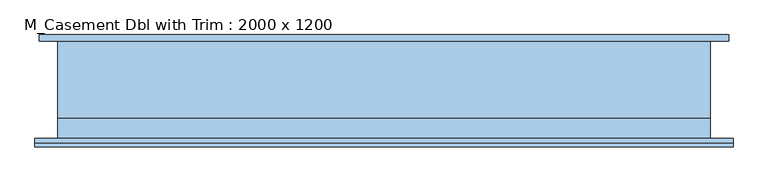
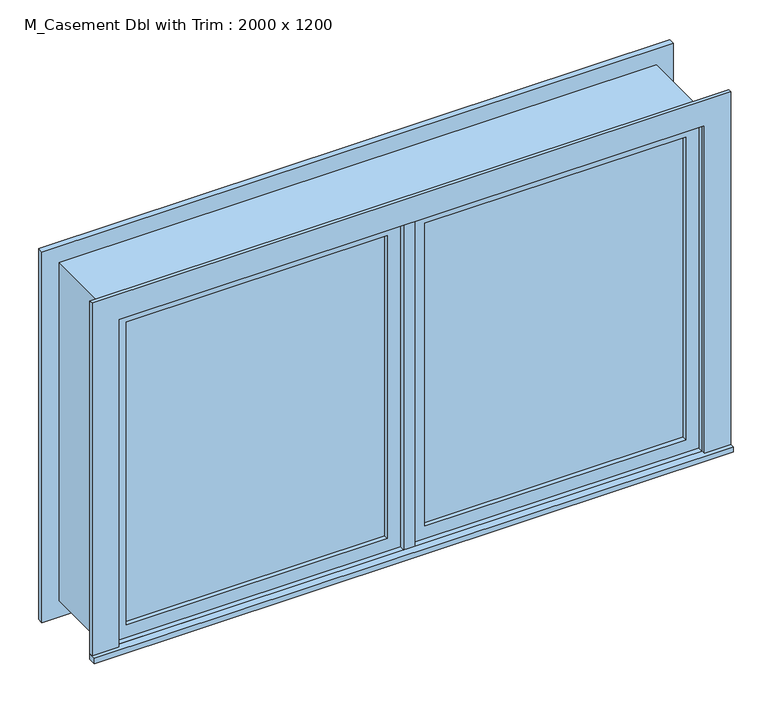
"""IFC4 building model written with IfcOpenShell, lengths in millimetres: window geometry, M_Casement Dbl with Trim : 2000 x 1200."""

from ifc_helpers import new_model, si_unit, frame, origin, place, context, project, spatial, polyline, outline, extrude, source, transform, mapped, element, save


def m_casement_dbl_with_trim_2000_x_1200_efed7f01(model_context):
    return source(origin(), model_context, "Body", "SweptSolid", [
        extrude(outline(polyline([(63.5, -134.175), (63.5, -121.475), (936.5, -121.475), (936.5, -134.175), (63.5, -134.175)])), frame((0.0, 0.0, 1063.5), z_axis=(0.0, 0.0, 1.0), x_axis=(1.0, 0.0, 0.0)), (0.0, 0.0, 1.0), 1073.0),
        extrude(outline(polyline([(2180.95, 19.05), (1019.05, 19.05), (1019.05, 980.95), (2180.95, 980.95), (2180.95, 19.05)]), holes=[polyline([(2136.5, 63.5), (2136.5, 936.5), (1063.5, 936.5), (1063.5, 63.5), (2136.5, 63.5)])]), frame((0.0, -150.05, 0.0), z_axis=(0.0, 1.0, 0.0), x_axis=(0.0, 0.0, 1.0)), (0.0, 0.0, 1.0), 44.45),
        extrude(outline(polyline([(-1069.95, -194.75), (-1069.95, -169.05), (1069.95, -169.05), (1069.95, -194.75), (-1069.95, -194.75)])), frame((0.0, 0.0, 1000.0), z_axis=(0.0, 0.0, 1.0), x_axis=(1.0, 0.0, 0.0)), (0.0, 0.0, 1.0), 19.05),
        extrude(outline(polyline([(2180.95, -980.95), (2180.95, 980.95), (1019.05, 980.95), (1019.05, 1069.95), (2269.95, 1069.95), (2269.95, -1069.95), (1019.05, -1069.95), (1019.05, -980.95), (2180.95, -980.95)])), frame((0.0, -182.05, 0.0), z_axis=(0.0, 1.0, 0.0), x_axis=(0.0, 0.0, 1.0)), (0.0, 0.0, 1.0), 13.0),
        extrude(outline(polyline([(2257.25, 1057.25), (2257.25, -1057.25), (942.75, -1057.25), (942.75, 1057.25), (2257.25, 1057.25)]), holes=[polyline([(2168.25, 968.25), (1031.75, 968.25), (1031.75, -968.25), (2168.25, -968.25), (2168.25, 968.25)])]), frame((0.0, 130.95, 0.0), z_axis=(0.0, 1.0, 0.0), x_axis=(0.0, 0.0, 1.0)), (0.0, 0.0, 1.0), 19.0),
        extrude(outline(polyline([(-63.5, -121.475), (-63.5, -134.175), (-936.5, -134.175), (-936.5, -121.475), (-63.5, -121.475)])), frame((0.0, 0.0, 1063.5), z_axis=(0.0, 0.0, 1.0), x_axis=(1.0, 0.0, 0.0)), (0.0, 0.0, 1.0), 1073.0),
        extrude(outline(polyline([(2180.95, -980.95), (1019.05, -980.95), (1019.05, -19.05), (2180.95, -19.05), (2180.95, -980.95)]), holes=[polyline([(2136.5, -936.5), (2136.5, -63.5), (1063.5, -63.5), (1063.5, -936.5), (2136.5, -936.5)])]), frame((0.0, -150.05, 0.0), z_axis=(0.0, 1.0, 0.0), x_axis=(0.0, 0.0, 1.0)), (0.0, 0.0, 1.0), 44.45),
        extrude(outline(polyline([(2200.0, -1000.0), (1000.0, -1000.0), (1000.0, 1000.0), (2200.0, 1000.0), (2200.0, -1000.0)]), holes=[polyline([(2168.25, -968.25), (2168.25, 968.25), (1031.75, 968.25), (1031.75, -968.25), (2168.25, -968.25)])]), frame((0.0, -105.6, 0.0), z_axis=(0.0, 1.0, 0.0), x_axis=(0.0, 0.0, 1.0)), (0.0, 0.0, 1.0), 236.55),
        extrude(outline(polyline([(2200.0, 1000.0), (2200.0, -1000.0), (1000.0, -1000.0), (1000.0, 1000.0), (2200.0, 1000.0)]), holes=[polyline([(2180.95, 980.95), (1019.05, 980.95), (1019.05, -980.95), (2180.95, -980.95), (2180.95, 980.95)])]), frame((0.0, -169.05, 0.0), z_axis=(0.0, 1.0, 0.0), x_axis=(0.0, 0.0, 1.0)), (0.0, 0.0, 1.0), 63.45),
        extrude(outline(polyline([(19.05, -105.6), (19.05, -169.1), (-19.05, -169.1), (-19.05, -105.6), (19.05, -105.6)])), frame((0.0, 0.0, 1019.05), z_axis=(0.0, 0.0, 1.0), x_axis=(1.0, 0.0, 0.0)), (0.0, 0.0, 1.0), 1161.9),
    ])


if __name__ == "__main__":
    model = new_model("IFC4")
    model_context = context("Model", 3, world=origin())
    ifc_project = project(units=[si_unit("LENGTHUNIT", "METRE", prefix="MILLI")], contexts=[model_context])
    site = spatial("IfcSite", under=ifc_project)
    building = spatial("IfcBuilding", under=site)
    placement = place(None, origin())
    m_casement_dbl_with_trim_2000_x_1200_shape = m_casement_dbl_with_trim_2000_x_1200_efed7f01(model_context)
    element("IfcWindow", 1, ObjectType="M_Casement Dbl with Trim : 2000 x 1200", at=placement, inside=building, context=model_context, shape_type="MappedRepresentation", body=[
        mapped(m_casement_dbl_with_trim_2000_x_1200_shape, transform((0.0, 0.0, 0.0), x_axis=(1.0, 0.0, 0.0), y_axis=(0.0, 1.0, 0.0), z_axis=(0.0, 0.0, 1.0))),
    ])
    save(model, "model.ifc")
